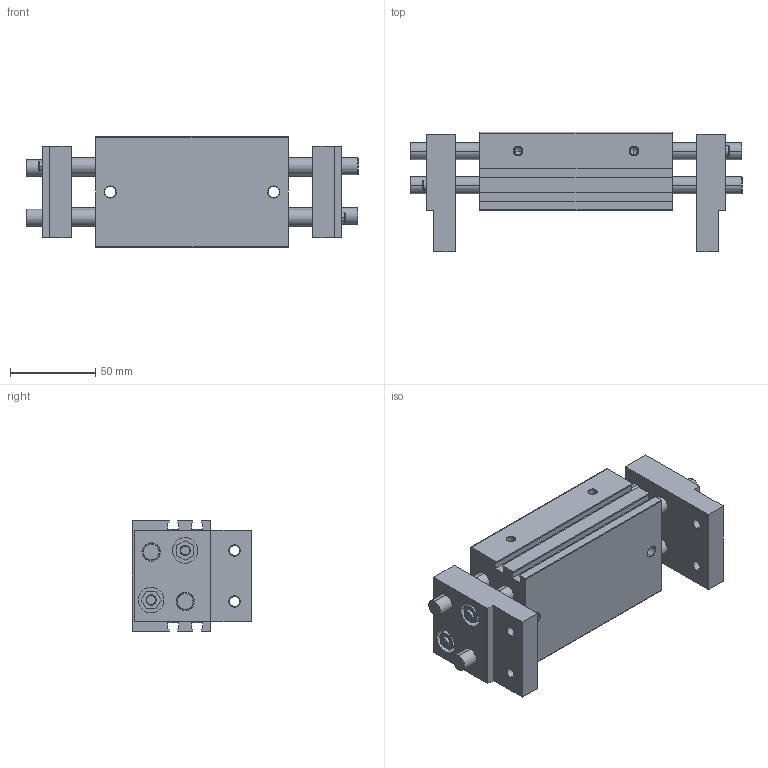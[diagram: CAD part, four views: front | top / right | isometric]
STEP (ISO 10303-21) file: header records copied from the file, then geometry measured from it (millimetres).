
FILE_DESCRIPTION (( 'STEP AP203' ), '1' );
FILE_NAME ('CHL2-20D1.STEP', '2017-06-06T20:16:44', ( '' ), ( '' ), 'SwSTEP 2.0', 'SolidWorks 2016', '' );
FILE_SCHEMA (( 'CONFIG_CONTROL_DESIGN' ));
Length unit declared in the file: millimetre
Products named in the file (3): CHL2-20D1 CORPO; CHL2-20D1 DEDO; CHL2-20D1
Assembly tree (3 placements, depth 2):
  CHL2-20D1
    CHL2-20D1 CORPO
    CHL2-20D1 DEDO  x2
Bounding box: 195 x 70 x 65 mm (x, y, z)
Volume: 429113.3 mm3; surface area: 105299.2 mm2
Topology: 3 solids, 3 shells, 347 faces, 815 edges, 509 vertices
Faces by surface type: cylinder 127, plane 125, cone 95
Entity records: 7839 total; most frequent: DIRECTION 1406, CARTESIAN_POINT 1259, ORIENTED_EDGE 1210, EDGE_CURVE 605, AXIS2_PLACEMENT_3D 532, VERTEX_POINT 385, VECTOR 342, LINE 342
